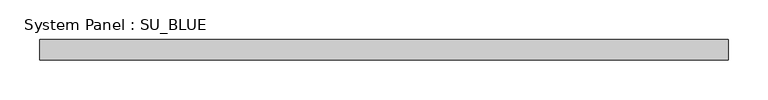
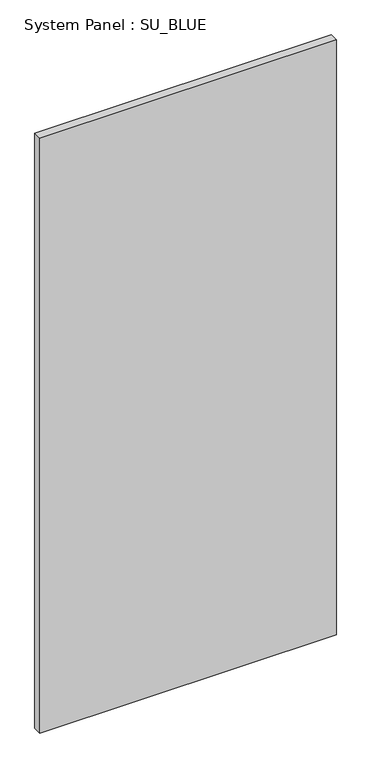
"""IFC4 building model written with IfcOpenShell, lengths in millimetres: plate geometry, System Panel : SU_BLUE."""

from ifc_helpers import new_model, si_unit, origin, origin_with_axes, place, context, project, spatial, polyline, outline, extrude, source, transform, mapped, element, save


def system_panel_su_blue_aa8bdef1(model_context):
    return source(origin(), model_context, "Body", "SweptSolid", [
        extrude(outline(polyline([(431.2346078, 19.05), (-431.2346078, 19.05), (-431.2346078, 44.45), (431.2346078, 44.45), (431.2346078, 19.05)])), origin_with_axes(), (0.0, 0.0, 1.0), 1828.8),
    ])


if __name__ == "__main__":
    model = new_model("IFC4")
    model_context = context("Model", 3, world=origin())
    ifc_project = project(units=[si_unit("LENGTHUNIT", "METRE", prefix="MILLI")], contexts=[model_context])
    site = spatial("IfcSite", under=ifc_project)
    building = spatial("IfcBuilding", under=site)
    placement = place(None, origin())
    system_panel_su_blue_shape = system_panel_su_blue_aa8bdef1(model_context)
    element("IfcPlate", 1, ObjectType="System Panel : SU_BLUE", at=placement, inside=building, context=model_context, shape_type="MappedRepresentation", body=[
        mapped(system_panel_su_blue_shape, transform((0.0, 0.0, 0.0), x_axis=(1.0, 0.0, 0.0), y_axis=(0.0, 1.0, 0.0), z_axis=(0.0, 0.0, 1.0))),
    ])
    save(model, "model.ifc")
